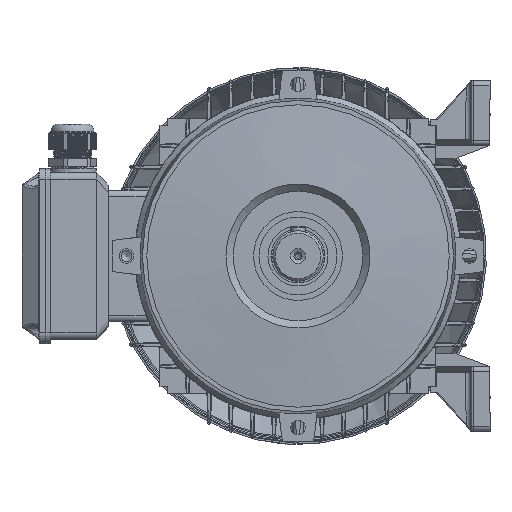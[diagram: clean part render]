
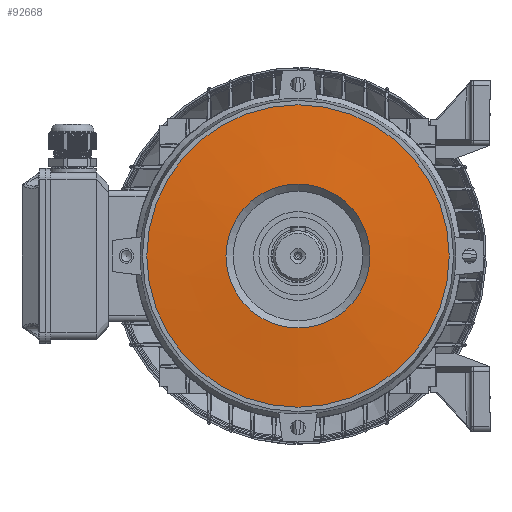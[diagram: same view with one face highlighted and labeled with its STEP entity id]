
A CAD part, left-side view. The second image highlights one B-rep face of the part: STEP entity #92668.
In plain terms, the highlighted conical face has half-angle 85 degrees and reference radius 126 mm.
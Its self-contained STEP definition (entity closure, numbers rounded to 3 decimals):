
#3289=FACE_BOUND('',#9557,.T.);
#4171=CONICAL_SURFACE('',#97964,126.,1.484);
#4377=FACE_OUTER_BOUND('',#9556,.T.);
#9556=EDGE_LOOP('',(#61961));
#9557=EDGE_LOOP('',(#61962));
#33295=CIRCLE('',#97963,126.);
#33296=CIRCLE('',#97965,60.);
#38046=VERTEX_POINT('',#134999);
#38047=VERTEX_POINT('',#135002);
#47495=EDGE_CURVE('',#38046,#38046,#33295,.T.);
#47496=EDGE_CURVE('',#38047,#38047,#33296,.T.);
#61961=ORIENTED_EDGE('',*,*,#47496,.F.);
#61962=ORIENTED_EDGE('',*,*,#47495,.T.);
#92668=ADVANCED_FACE('',(#4377,#3289),#4171,.T.);
#97963=AXIS2_PLACEMENT_3D('',#135000,#107504,#107505);
#97964=AXIS2_PLACEMENT_3D('',#135001,#107506,#107507);
#97965=AXIS2_PLACEMENT_3D('',#135003,#107508,#107509);
#107504=DIRECTION('center_axis',(-1.,0.,0.));
#107505=DIRECTION('ref_axis',(0.,0.,1.));
#107506=DIRECTION('center_axis',(1.,0.,0.));
#107507=DIRECTION('ref_axis',(0.,0.,-1.));
#107508=DIRECTION('center_axis',(-1.,0.,0.));
#107509=DIRECTION('ref_axis',(0.,0.,1.));
#134999=CARTESIAN_POINT('',(-9.226,0.,126.));
#135000=CARTESIAN_POINT('Origin',(-9.226,0.,0.));
#135001=CARTESIAN_POINT('Origin',(-9.226,0.,0.));
#135002=CARTESIAN_POINT('',(-15.,0.,-60.));
#135003=CARTESIAN_POINT('Origin',(-15.,0.,0.));
